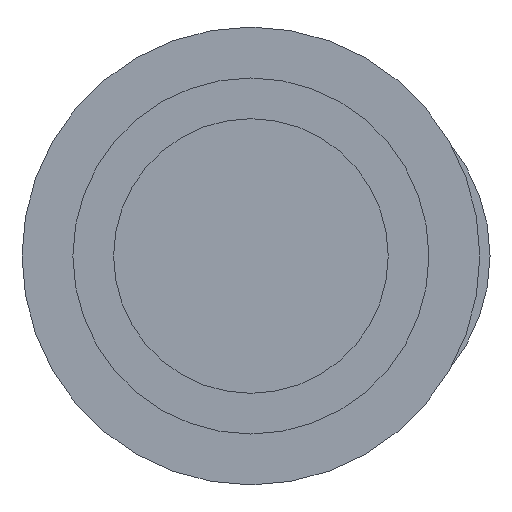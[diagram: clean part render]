
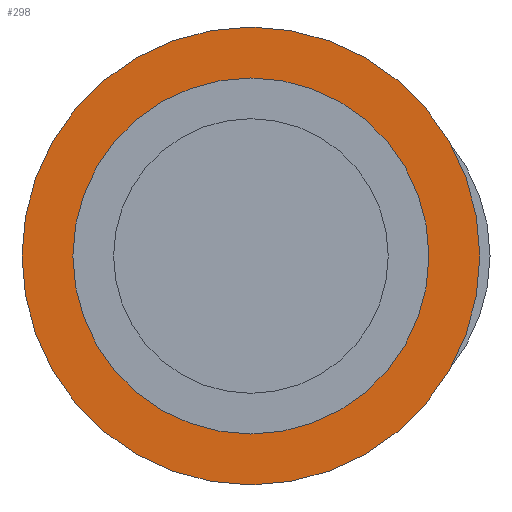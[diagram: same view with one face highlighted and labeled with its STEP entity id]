
A CAD part, left-side view. The second image highlights one B-rep face of the part: STEP entity #298.
In plain terms, the highlighted planar face has unit normal (-1, 0, 0).
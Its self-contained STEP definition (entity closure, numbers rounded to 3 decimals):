
#142=CARTESIAN_POINT('Axis2P3D Location',(0.,0.,0.)) ;
#146=CARTESIAN_POINT('Vertex',(0.,17.5,0.)) ;
#148=CARTESIAN_POINT('Vertex',(0.,0.,17.5)) ;
#151=CARTESIAN_POINT('Axis2P3D Location',(0.,0.,0.)) ;
#155=CARTESIAN_POINT('Vertex',(0.,0.,-17.5)) ;
#182=CARTESIAN_POINT('Axis2P3D Location',(0.,0.,0.)) ;
#186=CARTESIAN_POINT('Vertex',(0.,-17.5,0.)) ;
#189=CARTESIAN_POINT('Axis2P3D Location',(0.,0.,0.)) ;
#269=CARTESIAN_POINT('Axis2P3D Location',(0.,0.,0.)) ;
#274=CARTESIAN_POINT('Axis2P3D Location',(0.,0.,0.)) ;
#278=CARTESIAN_POINT('Vertex',(0.,-22.5,0.)) ;
#280=CARTESIAN_POINT('Vertex',(0.,22.5,0.)) ;
#283=CARTESIAN_POINT('Axis2P3D Location',(0.,0.,0.)) ;
#143=DIRECTION('Axis2P3D Direction',(-1.,-0.,-0.)) ;
#152=DIRECTION('Axis2P3D Direction',(-1.,-0.,-0.)) ;
#183=DIRECTION('Axis2P3D Direction',(-1.,-0.,-0.)) ;
#190=DIRECTION('Axis2P3D Direction',(-1.,-0.,-0.)) ;
#270=DIRECTION('Axis2P3D Direction',(1.,0.,-0.)) ;
#271=DIRECTION('Axis2P3D XDirection',(0.,1.,0.)) ;
#275=DIRECTION('Axis2P3D Direction',(1.,0.,-0.)) ;
#284=DIRECTION('Axis2P3D Direction',(1.,0.,-0.)) ;
#144=AXIS2_PLACEMENT_3D('Circle Axis2P3D',#142,#143,$) ;
#153=AXIS2_PLACEMENT_3D('Circle Axis2P3D',#151,#152,$) ;
#184=AXIS2_PLACEMENT_3D('Circle Axis2P3D',#182,#183,$) ;
#191=AXIS2_PLACEMENT_3D('Circle Axis2P3D',#189,#190,$) ;
#272=AXIS2_PLACEMENT_3D('Plane Axis2P3D',#269,#270,#271) ;
#276=AXIS2_PLACEMENT_3D('Circle Axis2P3D',#274,#275,$) ;
#285=AXIS2_PLACEMENT_3D('Circle Axis2P3D',#283,#284,$) ;
#289=ORIENTED_EDGE('',*,*,#282,.F.) ;
#290=ORIENTED_EDGE('',*,*,#287,.F.) ;
#293=ORIENTED_EDGE('',*,*,#150,.T.) ;
#294=ORIENTED_EDGE('',*,*,#193,.T.) ;
#295=ORIENTED_EDGE('',*,*,#188,.T.) ;
#296=ORIENTED_EDGE('',*,*,#157,.T.) ;
#297=FACE_BOUND('',#292,.T.) ;
#298=ADVANCED_FACE('395X-035-125/1',(#291,#297),#273,.F.) ;
#145=CIRCLE('generated circle',#144,17.5) ;
#154=CIRCLE('generated circle',#153,17.5) ;
#185=CIRCLE('generated circle',#184,17.5) ;
#192=CIRCLE('generated circle',#191,17.5) ;
#277=CIRCLE('generated circle',#276,22.5) ;
#286=CIRCLE('generated circle',#285,22.5) ;
#150=EDGE_CURVE('',#147,#149,#145,.F.) ;
#157=EDGE_CURVE('',#156,#147,#154,.F.) ;
#188=EDGE_CURVE('',#187,#156,#185,.F.) ;
#193=EDGE_CURVE('',#149,#187,#192,.F.) ;
#282=EDGE_CURVE('',#279,#281,#277,.T.) ;
#287=EDGE_CURVE('',#281,#279,#286,.T.) ;
#288=EDGE_LOOP('',(#289,#290)) ;
#292=EDGE_LOOP('',(#293,#294,#295,#296)) ;
#291=FACE_OUTER_BOUND('',#288,.T.) ;
#273=PLANE('Plane',#272) ;
#147=VERTEX_POINT('',#146) ;
#149=VERTEX_POINT('',#148) ;
#156=VERTEX_POINT('',#155) ;
#187=VERTEX_POINT('',#186) ;
#279=VERTEX_POINT('',#278) ;
#281=VERTEX_POINT('',#280) ;
